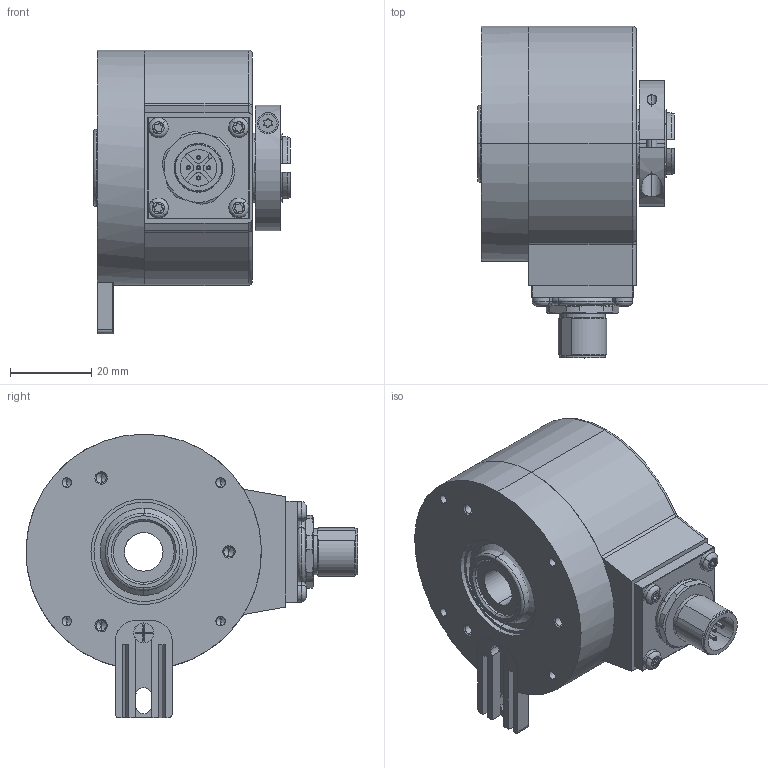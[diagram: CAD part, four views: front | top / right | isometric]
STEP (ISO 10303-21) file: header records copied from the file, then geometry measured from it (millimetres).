
FILE_DESCRIPTION (( 'STEP AP203' ), '1' );
FILE_NAME ('K58I.OXX.XXXXX.XC2152A.6XRC6.step', '2025-12-08T12:06:47', ( '' ), ( '' ), 'SwSTEP 2.0', 'SolidWorks 2021', '' );
FILE_SCHEMA (( 'CONFIG_CONTROL_DESIGN' ));
Length unit declared in the file: millimetre
Products named in the file (1): K58I.OXX.XXXXX.XC2152A.6XRC6
Bounding box: 48.5 x 81.8 x 69.9 mm (x, y, z)
Surface area: 38066.8 mm2 (no closed solid volume)
Topology: 0 solids, 14 shells, 538 faces, 1352 edges, 859 vertices
Faces by surface type: cylinder 247, plane 188, cone 70, bspline 24, torus 9
Entity records: 18094 total; most frequent: CARTESIAN_POINT 5015, DIRECTION 2837, ORIENTED_EDGE 2660, EDGE_CURVE 1338, AXIS2_PLACEMENT_3D 1111, VERTEX_POINT 859, VECTOR 615, LINE 615
